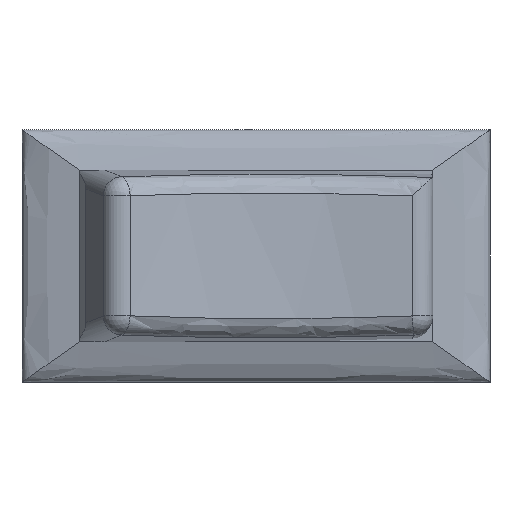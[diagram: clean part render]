
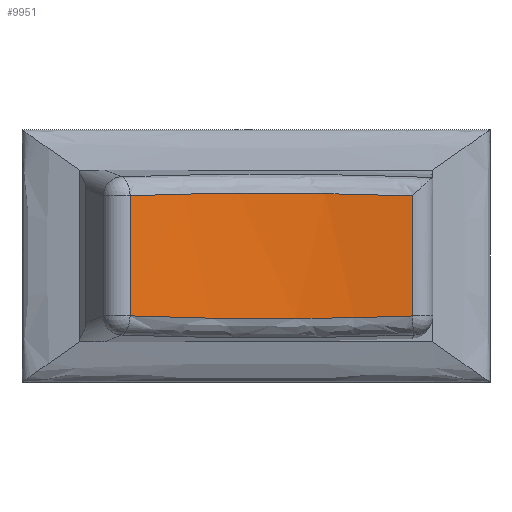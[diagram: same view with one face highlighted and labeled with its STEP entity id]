
A CAD part, top view. The second image highlights one B-rep face of the part: STEP entity #9951.
In plain terms, the highlighted cylindrical face has radius 53.374 mm (diameter 106.748 mm), a partial arc.
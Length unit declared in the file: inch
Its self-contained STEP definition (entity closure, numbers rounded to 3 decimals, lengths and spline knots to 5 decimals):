
#56=ELLIPSE('',#10598,2.12079,2.10135);
#59=ELLIPSE('',#10602,2.12079,2.10135);
#216=CYLINDRICAL_SURFACE('',#10609,2.10135);
#889=FACE_OUTER_BOUND('',#1436,.T.);
#1436=EDGE_LOOP('',(#8907,#8908,#8909,#8910));
#2728=LINE('',#17683,#3768);
#2733=LINE('',#17747,#3773);
#3768=VECTOR('',#12508,0.3937);
#3773=VECTOR('',#12537,0.3937);
#4701=VERTEX_POINT('',#17650);
#4708=VERTEX_POINT('',#17667);
#4715=VERTEX_POINT('',#17687);
#4723=VERTEX_POINT('',#17734);
#6106=EDGE_CURVE('',#4701,#4708,#2728,.T.);
#6116=EDGE_CURVE('',#4708,#4715,#56,.T.);
#6121=EDGE_CURVE('',#4715,#4723,#2733,.T.);
#6122=EDGE_CURVE('',#4723,#4701,#59,.T.);
#8907=ORIENTED_EDGE('',*,*,#6106,.T.);
#8908=ORIENTED_EDGE('',*,*,#6116,.T.);
#8909=ORIENTED_EDGE('',*,*,#6121,.T.);
#8910=ORIENTED_EDGE('',*,*,#6122,.T.);
#9951=ADVANCED_FACE('',(#889),#216,.F.);
#10598=AXIS2_PLACEMENT_3D('',#17727,#12528,#12529);
#10602=AXIS2_PLACEMENT_3D('',#17773,#12538,#12539);
#10609=AXIS2_PLACEMENT_3D('',#17790,#12560,#12561);
#12508=DIRECTION('',(0.,-1.,0.));
#12528=DIRECTION('center_axis',(0.,-0.991,
-0.135));
#12529=DIRECTION('ref_axis',(0.,-0.135,0.991));
#12537=DIRECTION('',(0.,1.,0.));
#12538=DIRECTION('center_axis',(0.,0.991,
-0.135));
#12539=DIRECTION('ref_axis',(0.,0.135,0.991));
#12560=DIRECTION('center_axis',(0.,-1.,0.));
#12561=DIRECTION('ref_axis',(-0.307,0.,-0.952));
#17650=CARTESIAN_POINT('',(1.2443,0.56836,-0.26215));
#17667=CARTESIAN_POINT('',(1.2443,0.10064,-0.26215));
#17683=CARTESIAN_POINT('',(1.2443,0.,-0.26215));
#17687=CARTESIAN_POINT('',(0.1207,0.10064,-0.26215));
#17727=CARTESIAN_POINT('Origin',(0.6825,0.37674,-2.287));
#17734=CARTESIAN_POINT('',(0.1207,0.56836,-0.26215));
#17747=CARTESIAN_POINT('',(0.1207,0.,-0.26215));
#17773=CARTESIAN_POINT('Origin',(0.6825,0.29226,-2.287));
#17790=CARTESIAN_POINT('Origin',(0.6825,0.,-2.287));
